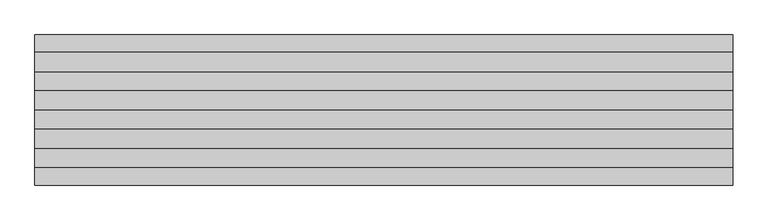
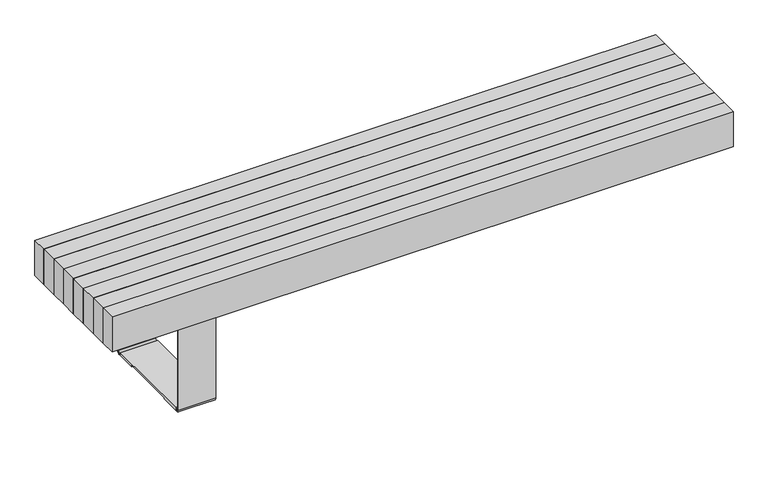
"""IFC4 building model written with IfcOpenShell, lengths in millimetres: furniture geometry, Roros Produkter - Femunden - Bench - 34360 : Roros Produkter - Femunden - Bench - 34360."""

import ifcopenshell
import ifcopenshell.guid

model = None  # the IFC model being written
_history = None  # IfcOwnerHistory: only IFC2X3 demands one
_inside = {}  # id of a spatial element -> (the spatial element, [elements in it])
_under = {}  # id of a project, library or spatial element -> (it, [spatial elements below it])
_declared = {}  # id of a project -> (the project, [libraries it declares])
_typed = {}  # id of a type object -> (the type object, [elements of that type])
_made_of = {}  # id of a material, layer set ... -> (it, [elements and type objects made of it])


def new_model(schema):
    """Start an empty IFC model of exactly this schema.

    Asked for "IFC4X3", IfcOpenShell would pick the latest addendum, in which some entities
    have other attributes; the version numbers below select the first issue.
    IFC2X3 requires an IfcOwnerHistory on every rooted entity: one is made here for all.
    """
    global model, _history
    if schema == "IFC4X3":
        model = ifcopenshell.file(schema_version=(4, 3, 0, 0))
    else:
        model = ifcopenshell.file(schema=schema)
    _inside.clear()
    _under.clear()
    _declared.clear()
    _typed.clear()
    _made_of.clear()
    _history = None
    if model.schema == "IFC2X3":
        org = make("IfcOrganization", Name="unknown")
        user = make(
            "IfcPersonAndOrganization",
            ThePerson=make("IfcPerson", FamilyName="unknown"),
            TheOrganization=org,
        )
        app = make(
            "IfcApplication",
            ApplicationDeveloper=org,
            Version="unknown",
            ApplicationFullName="unknown",
            ApplicationIdentifier="unknown",
        )
        _history = make(
            "IfcOwnerHistory",
            OwningUser=user,
            OwningApplication=app,
            ChangeAction="ADDED",
            CreationDate=0,
        )
    return model


def make(cls, **values):
    """One entity of the class cls with the attributes given. An attribute that is None is left unset."""
    return model.create_entity(
        cls, **{name: value for name, value in values.items() if value is not None}
    )


def rooted(cls, **values):
    """An entity with a GlobalId (a new one), such as an element, a storey or a relation."""
    return make(cls, GlobalId=ifcopenshell.guid.new(), OwnerHistory=_history, **values)


def si_unit(unit_type, name, prefix=None):
    """IfcSIUnit, for example si_unit("LENGTHUNIT", "METRE", prefix="MILLI")."""
    return make("IfcSIUnit", UnitType=unit_type, Prefix=prefix, Name=name)


def assignment(units):
    """IfcUnitAssignment: the units of a project."""
    return None if units is None else make("IfcUnitAssignment", Units=units)


def point(xyz):
    """IfcCartesianPoint."""
    return None if xyz is None else make("IfcCartesianPoint", Coordinates=xyz)


def direction(xyz):
    """IfcDirection."""
    return None if xyz is None else make("IfcDirection", DirectionRatios=xyz)


def frame(location, z_axis=None, x_axis=None):
    """IfcAxis2Placement3D, a coordinate frame: its origin and axes. An axis left out is left unset."""
    return make(
        "IfcAxis2Placement3D",
        Location=point(location),
        Axis=direction(z_axis),
        RefDirection=direction(x_axis),
    )


def frame_2d(location, x_axis=None):
    """IfcAxis2Placement2D, a coordinate frame in the plane: its origin and x axis."""
    return make(
        "IfcAxis2Placement2D", Location=point(location), RefDirection=direction(x_axis)
    )


def origin():
    """The frame at (0, 0, 0) with its axes left unset."""
    return frame((0.0, 0.0, 0.0))


def place(relative_to, where):
    """IfcLocalPlacement: puts the frame where relative to a parent placement (None: the world)."""
    return make(
        "IfcLocalPlacement", PlacementRelTo=relative_to, RelativePlacement=where
    )


def context(
    kind, dimensions, precision=None, world=None, true_north=None, identifier=None
):
    """IfcGeometricRepresentationContext, for example the 3D "Model" context."""
    return make(
        "IfcGeometricRepresentationContext",
        ContextIdentifier=identifier,
        ContextType=kind,
        CoordinateSpaceDimension=dimensions,
        Precision=precision,
        WorldCoordinateSystem=world,
        TrueNorth=true_north,
    )


def project(units=None, contexts=None):
    """IfcProject with its units and contexts."""
    return rooted(
        "IfcProject",
        Name="project",
        RepresentationContexts=contexts,
        UnitsInContext=assignment(units),
    )


def spatial(cls, under=None, at=None, **own):
    """A site, building, storey or space (cls), placed at a placement, below another one or the project."""
    s = rooted(cls, ObjectPlacement=at, **own)
    if under is not None:
        _under.setdefault(under.id(), (under, []))[1].append(s)
    return s


def polyline(points):
    """IfcPolyline through the points."""
    return make("IfcPolyline", Points=[point(p) for p in points])


def circle_curve(where, radius):
    """IfcCircle in the frame where."""
    return make("IfcCircle", Position=where, Radius=radius)


def trimmed(basis, trim1, trim2, sense, master):
    """IfcTrimmedCurve: the piece of a basis curve between two trims."""
    return make(
        "IfcTrimmedCurve",
        BasisCurve=basis,
        Trim1=trim1,
        Trim2=trim2,
        SenseAgreement=sense,
        MasterRepresentation=master,
    )


def segment(curve, same_sense, transition):
    """IfcCompositeCurveSegment."""
    return make(
        "IfcCompositeCurveSegment",
        Transition=transition,
        SameSense=same_sense,
        ParentCurve=curve,
    )


def composite_curve(segments, self_intersect=None):
    """IfcCompositeCurve: segments joined end to end."""
    return make("IfcCompositeCurve", Segments=segments, SelfIntersect=self_intersect)


def outline(outer, holes=None, kind="AREA"):
    """IfcArbitraryClosedProfileDef: a profile drawn as a closed curve; with holes, ...WithVoids."""
    if holes is None:
        return make("IfcArbitraryClosedProfileDef", ProfileType=kind, OuterCurve=outer)
    return make(
        "IfcArbitraryProfileDefWithVoids",
        ProfileType=kind,
        OuterCurve=outer,
        InnerCurves=holes,
    )


def extrude(swept, where, along, depth):
    """IfcExtrudedAreaSolid: the profile swept, set in the frame where, extruded along a direction by depth."""
    return make(
        "IfcExtrudedAreaSolid",
        SweptArea=swept,
        Position=where,
        ExtrudedDirection=direction(along),
        Depth=depth,
    )


def shape(context_of_items, identifier, shape_type, items):
    """IfcShapeRepresentation: the items that make up one representation, for example the "Body"."""
    return make(
        "IfcShapeRepresentation",
        ContextOfItems=context_of_items,
        RepresentationIdentifier=identifier,
        RepresentationType=shape_type,
        Items=items,
    )


def source(mapping_origin, context_of_items, identifier, shape_type, items):
    """IfcRepresentationMap: a shape defined once, which mapped items show again and again."""
    return make(
        "IfcRepresentationMap",
        MappingOrigin=mapping_origin,
        MappedRepresentation=shape(context_of_items, identifier, shape_type, items),
    )


def transform(
    local_origin,
    x_axis=None,
    y_axis=None,
    z_axis=None,
    scale=None,
    scale2=None,
    scale3=None,
    uniform=True,
):
    """IfcCartesianTransformationOperator3D, or its non-uniform kind. x_axis, y_axis, z_axis: its Axis1, 2, 3."""
    if uniform:
        return make(
            "IfcCartesianTransformationOperator3D",
            Axis1=direction(x_axis),
            Axis2=direction(y_axis),
            LocalOrigin=point(local_origin),
            Scale=scale,
            Axis3=direction(z_axis),
        )
    return make(
        "IfcCartesianTransformationOperator3DnonUniform",
        Axis1=direction(x_axis),
        Axis2=direction(y_axis),
        LocalOrigin=point(local_origin),
        Scale=scale,
        Axis3=direction(z_axis),
        Scale2=scale2,
        Scale3=scale3,
    )


def mapped(mapping_source, mapping_target):
    """IfcMappedItem: shows the shape of a source again, moved by a transform."""
    return make(
        "IfcMappedItem", MappingSource=mapping_source, MappingTarget=mapping_target
    )


def made_of(thing, what):
    """Note that an element or type object is made of a material, layer set ...; save() writes the relation."""
    if what is not None:
        _made_of.setdefault(what.id(), (what, []))[1].append(thing)
    return thing


def element(
    cls,
    number,
    at=None,
    inside=None,
    cuts=None,
    type_object=None,
    material=None,
    context=None,
    identifier="Body",
    shape_type=None,
    held_by="IfcProductDefinitionShape",
    body=None,
    shapes=None,
    **own,
):
    """One element of the class cls, such as IfcWall. Its Tag is "e" and its number.

    at: its placement. inside: the storey or other place that contains it. cuts: it is an
    opening in that element (IfcRelVoidsElement). A single representation is given by context,
    identifier, shape_type and body (its items); several are given by shapes. held_by: the class
    of the entity that holds the representations. save() writes the other relations.
    """
    e = rooted(cls, Tag="e%d" % number, ObjectPlacement=at, **own)
    if body is not None:
        shapes = [shape(context, identifier, shape_type, body)]
    if shapes is not None:
        e.Representation = make(held_by, Representations=shapes)
    if inside is not None:
        _inside.setdefault(inside.id(), (inside, []))[1].append(e)
    if cuts is not None:
        rooted(
            "IfcRelVoidsElement", RelatingBuildingElement=cuts, RelatedOpeningElement=e
        )
    if type_object is not None:
        _typed.setdefault(type_object.id(), (type_object, []))[1].append(e)
    return made_of(e, material)


def aggregate(whole, parts):
    """IfcRelAggregates: a whole, such as a stair, and the parts it consists of."""
    return rooted("IfcRelAggregates", RelatingObject=whole, RelatedObjects=parts)


def save(model, path):
    """Write the relations noted so far, then the file.

    IfcRelAggregates (storeys below a building ...), IfcRelContainedInSpatialStructure (elements
    in a storey), IfcRelDefinesByType, IfcRelAssociatesMaterial and IfcRelDeclares: one each for
    every whole, place, type object, material and project.
    """
    for whole, parts in _under.values():
        aggregate(whole, parts)
    for where, things in _inside.values():
        rooted(
            "IfcRelContainedInSpatialStructure",
            RelatedElements=things,
            RelatingStructure=where,
        )
    for kind, things in _typed.values():
        rooted("IfcRelDefinesByType", RelatedObjects=things, RelatingType=kind)
    for what, things in _made_of.values():
        rooted("IfcRelAssociatesMaterial", RelatedObjects=things, RelatingMaterial=what)
    for by, libraries in _declared.values():
        rooted("IfcRelDeclares", RelatingContext=by, RelatedDefinitions=libraries)
    model.write(path)


def furniture_44ae5550(model_context):
    return source(origin(), model_context, "Body", "SweptSolid", [
        extrude(outline(composite_curve([segment(polyline([(165.0, 441.7), (170.0, 441.7), (170.0, 35.7)]), True, "CONTINUOUS"), segment(trimmed(circle_curve(frame_2d((160.0, 35.7)), 10.0), [point((170.0, 35.7))], [point((160.0, 25.7))], False, "CARTESIAN"), True, "CONTINUOUS"), segment(polyline([(160.0, 25.7), (90.0, 25.7), (90.0, 30.7), (-90.0, 30.7), (-90.0, 25.7), (-160.0, 25.7)]), True, "CONTINUOUS"), segment(trimmed(circle_curve(frame_2d((-160.0, 35.7)), 10.0), [point((-160.0, 25.7))], [point((-170.0, 35.7))], False, "CARTESIAN"), True, "CONTINUOUS"), segment(polyline([(-170.0, 35.7), (-170.0, 441.7), (-165.0, 441.7), (-165.0, 36.7)]), True, "CONTINUOUS"), segment(trimmed(circle_curve(frame_2d((-159.0, 36.7)), 6.0), [point((-165.0, 36.7))], [point((-159.0, 30.7))], True, "CARTESIAN"), True, "CONTINUOUS"), segment(polyline([(-159.0, 30.7), (-154.0, 30.7), (-154.0, 35.7), (154.0, 35.7), (154.0, 30.7), (159.0, 30.7)]), True, "CONTINUOUS"), segment(trimmed(circle_curve(frame_2d((159.0, 36.7)), 6.0), [point((159.0, 30.7))], [point((165.0, 36.7))], True, "CARTESIAN"), True, "CONTINUOUS"), segment(polyline([(165.0, 36.7), (165.0, 441.7)]), True, "CONTINUOUS")], self_intersect=False)), frame((-760.0, 0.0, 0.0), z_axis=(1.0, 0.0, 0.0), x_axis=(0.0, 1.0, 0.0)), (0.0, 0.0, 1.0), 120.0),
        extrude(outline(polyline([(1000.0, 165.0), (1000.0, 110.0), (-1000.0, 110.0), (-1000.0, 165.0), (1000.0, 165.0)])), frame((0.0, 0.0, 345.7), z_axis=(0.0, 0.0, 1.0), x_axis=(1.0, 0.0, 0.0)), (0.0, 0.0, 1.0), 120.0),
        extrude(outline(polyline([(1000.0, 55.0), (1000.0, 0.0), (-1000.0, 0.0), (-1000.0, 55.0), (1000.0, 55.0)])), frame((0.0, 0.0, 345.7), z_axis=(0.0, 0.0, 1.0), x_axis=(1.0, 0.0, 0.0)), (0.0, 0.0, 1.0), 120.0),
        extrude(outline(polyline([(1000.0, -55.0), (1000.0, -110.0), (-1000.0, -110.0), (-1000.0, -55.0), (1000.0, -55.0)])), frame((0.0, 0.0, 345.7), z_axis=(0.0, 0.0, 1.0), x_axis=(1.0, 0.0, 0.0)), (0.0, 0.0, 1.0), 120.0),
        extrude(outline(polyline([(1000.0, -165.0), (1000.0, -215.0), (-1000.0, -215.0), (-1000.0, -165.0), (1000.0, -165.0)])), frame((0.0, 0.0, 345.7), z_axis=(0.0, 0.0, 1.0), x_axis=(1.0, 0.0, 0.0)), (0.0, 0.0, 1.0), 120.0),
        extrude(outline(polyline([(1000.0, 215.0), (1000.0, 165.0), (-1000.0, 165.0), (-1000.0, 215.0), (1000.0, 215.0)])), frame((0.0, 0.0, 345.7), z_axis=(0.0, 0.0, 1.0), x_axis=(1.0, 0.0, 0.0)), (0.0, 0.0, 1.0), 120.0),
        extrude(outline(polyline([(1000.0, 110.0), (1000.0, 55.0), (-1000.0, 55.0), (-1000.0, 110.0), (1000.0, 110.0)])), frame((0.0, 0.0, 345.7), z_axis=(0.0, 0.0, 1.0), x_axis=(1.0, 0.0, 0.0)), (0.0, 0.0, 1.0), 120.0),
        extrude(outline(polyline([(1000.0, 0.0), (1000.0, -55.0), (-1000.0, -55.0), (-1000.0, 0.0), (1000.0, 0.0)])), frame((0.0, 0.0, 345.7), z_axis=(0.0, 0.0, 1.0), x_axis=(1.0, 0.0, 0.0)), (0.0, 0.0, 1.0), 120.0),
        extrude(outline(polyline([(1000.0, -110.0), (1000.0, -165.0), (-1000.0, -165.0), (-1000.0, -110.0), (1000.0, -110.0)])), frame((0.0, 0.0, 345.7), z_axis=(0.0, 0.0, 1.0), x_axis=(1.0, 0.0, 0.0)), (0.0, 0.0, 1.0), 120.0),
    ])


if __name__ == "__main__":
    model = new_model("IFC4")
    model_context = context("Model", 3, world=origin())
    ifc_project = project(units=[si_unit("LENGTHUNIT", "METRE", prefix="MILLI")], contexts=[model_context])
    site = spatial("IfcSite", under=ifc_project)
    building = spatial("IfcBuilding", under=site)
    placement = place(None, origin())
    furniture_shape = furniture_44ae5550(model_context)
    element("IfcFurniture", 1, ObjectType="Roros Produkter - Femunden - Bench - 34360 : Roros Produkter - Femunden - Bench - 34360", at=placement, inside=building, context=model_context, shape_type="MappedRepresentation", body=[
        mapped(furniture_shape, transform((0.0, 0.0, 0.0), x_axis=(1.0, 0.0, 0.0), y_axis=(0.0, 1.0, 0.0), z_axis=(0.0, 0.0, 1.0))),
    ])
    save(model, "model.ifc")
